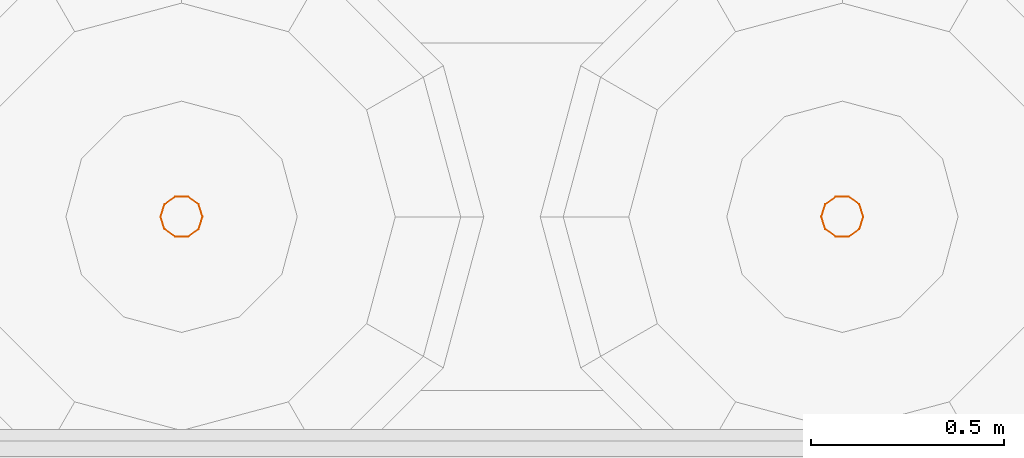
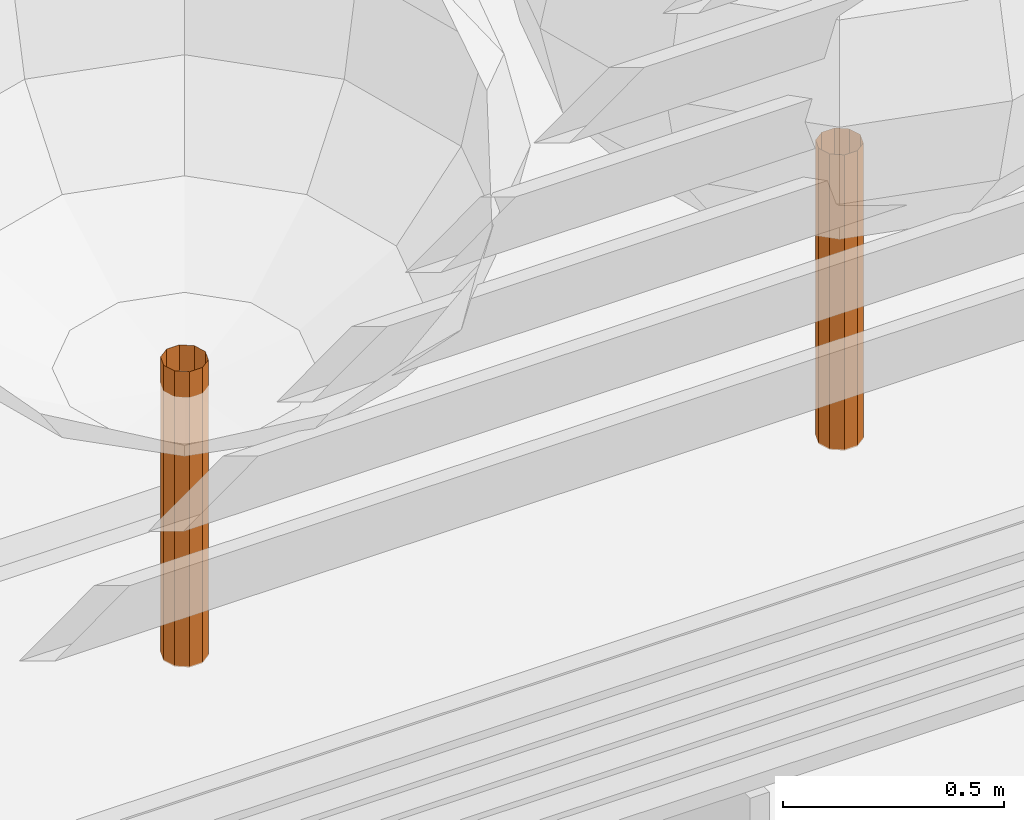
# One storey, part 177 of 177: 2 geographic elements.
"""IFC4 building model written with IfcOpenShell, lengths in metres."""

from ifc_helpers import new_model, si_unit, origin, origin_with_axes, place, context, subcontext, project, spatial, triangles, element, save


model = new_model("IFC4")

# Units and contexts
model_context = context("Model", 3, precision=1e-05, world=origin_with_axes())
body_context = subcontext(model_context, "Body", "Model", "MODEL_VIEW")
ifc_project = project(units=[si_unit("LENGTHUNIT", "METRE"), si_unit("AREAUNIT", "SQUARE_METRE"), si_unit("VOLUMEUNIT", "CUBIC_METRE"), si_unit("PLANEANGLEUNIT", "RADIAN")], contexts=[model_context])

# Site, building, storey
site_placement = place(None, origin_with_axes())
site = spatial("IfcSite", under=ifc_project, at=site_placement, Name="Predio Los Mangos - Morales, San Martín", CompositionType="ELEMENT")
building_placement = place(site_placement, origin())
building = spatial("IfcBuilding", under=site, at=building_placement, Name="Hogar de Refugio Temporal", CompositionType="ELEMENT")
storey_placement = place(building_placement, origin())
storey = spatial("IfcBuildingStorey", under=building, at=storey_placement, Name="NIVEL 1 (NPT +0.00)", CompositionType="ELEMENT", Elevation=0.0)

# Geographic elements
geographic_element_1_placement = place(storey_placement, origin())
element("IfcGeographicElement", 1, at=geographic_element_1_placement, inside=storey, Name="arbol_tronco", ObjectType="Árbol", PredefinedType="NOTDEFINED", context=body_context, shape_type="Tessellation", body=[
    triangles([(41.2594, 110.25, 0.45), (41.249, 110.282, 0.45), (41.2218, 110.3017, 0.45), (41.1882, 110.3017, 0.45), (41.161, 110.282, 0.45), (41.1506, 110.25, 0.45), (41.161, 110.218, 0.45), (41.1882, 110.1983, 0.45), (41.2218, 110.1983, 0.45), (41.249, 110.218, 0.45), (41.2594, 110.25, 1.266), (41.249, 110.282, 1.266), (41.2218, 110.3017, 1.266), (41.1882, 110.3017, 1.266), (41.161, 110.282, 1.266), (41.1506, 110.25, 1.266), (41.161, 110.218, 1.266), (41.1882, 110.1983, 1.266), (41.2218, 110.1983, 1.266), (41.249, 110.218, 1.266)], [[1, 2, 12], [2, 3, 13], [3, 4, 14], [4, 5, 15], [5, 6, 16], [6, 7, 17], [7, 8, 18], [8, 9, 19], [9, 10, 20], [10, 1, 11], [1, 12, 11], [2, 13, 12], [3, 14, 13], [4, 15, 14], [5, 16, 15], [6, 17, 16], [7, 18, 17], [8, 19, 18], [9, 20, 19], [10, 11, 20]]),
])
geographic_element_2_placement = place(storey_placement, origin())
element("IfcGeographicElement", 2, at=geographic_element_2_placement, inside=storey, Name="arbol_tronco", ObjectType="Árbol", PredefinedType="NOTDEFINED", context=body_context, shape_type="Tessellation", body=[
    triangles([(39.5494, 110.25, 0.45), (39.539, 110.282, 0.45), (39.5118, 110.3017, 0.45), (39.4782, 110.3017, 0.45), (39.451, 110.282, 0.45), (39.4406, 110.25, 0.45), (39.451, 110.218, 0.45), (39.4782, 110.1983, 0.45), (39.5118, 110.1983, 0.45), (39.539, 110.218, 0.45), (39.5494, 110.25, 1.266), (39.539, 110.282, 1.266), (39.5118, 110.3017, 1.266), (39.4782, 110.3017, 1.266), (39.451, 110.282, 1.266), (39.4406, 110.25, 1.266), (39.451, 110.218, 1.266), (39.4782, 110.1983, 1.266), (39.5118, 110.1983, 1.266), (39.539, 110.218, 1.266)], [[1, 2, 12], [2, 3, 13], [3, 4, 14], [4, 5, 15], [5, 6, 16], [6, 7, 17], [7, 8, 18], [8, 9, 19], [9, 10, 20], [10, 1, 11], [1, 12, 11], [2, 13, 12], [3, 14, 13], [4, 15, 14], [5, 16, 15], [6, 17, 16], [7, 18, 17], [8, 19, 18], [9, 20, 19], [10, 11, 20]]),
])

save(model, "model.ifc")
